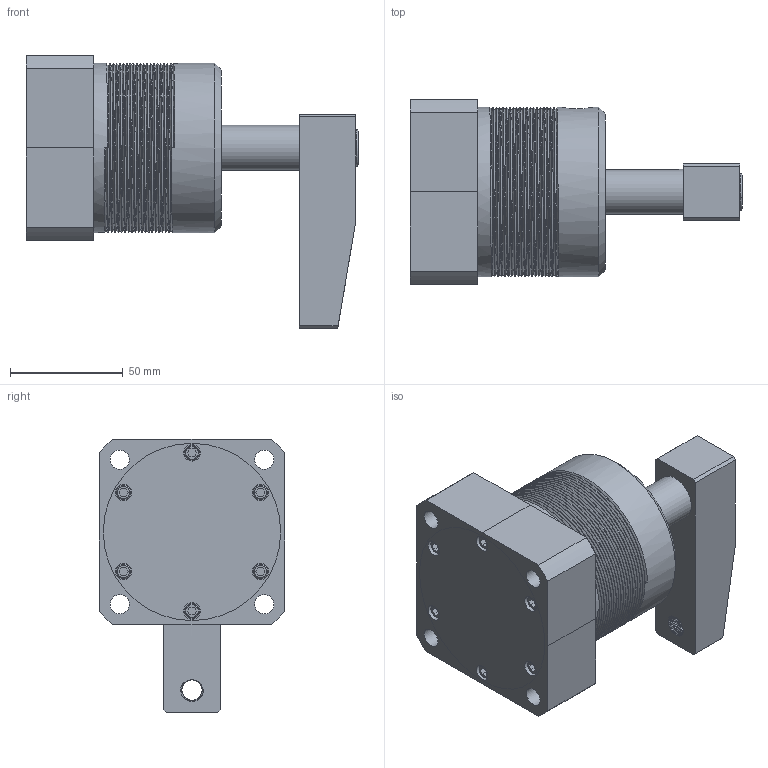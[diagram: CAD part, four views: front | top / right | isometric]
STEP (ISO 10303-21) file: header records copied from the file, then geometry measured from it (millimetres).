
FILE_DESCRIPTION(/* description */ (''),/* implementation_level */ '2;1');
FILE_NAME(/* name */ 'D:\Vault_2016\Projekty\STRONA\Pneumatic\Line ; Pipe connecct - type\cas-63s_asm\CAS-63SL-90_OTWARTY.stp',/* time_stamp */ '2019-01-17T12:54:05+01:00',/* author */ ('user'),/* organization */ (''),/* preprocessor_version */ 'ST-DEVELOPER v17.2',/* originating_system */ 'Autodesk Inventor 2019',/* authorisation */ '');
FILE_SCHEMA (('AUTOMOTIVE_DESIGN { 1 0 10303 214 3 1 1 }'));
Products named in the file (7): CAS-63SL-90_OTWARTY; CAS-63BT; CAS-63SHSG; CAS-63HG; M4; CAS-63SYB; M10LC
Assembly tree (11 placements, depth 2):
  CAS-63SL-90_OTWARTY
    CAS-63BT
    CAS-63SHSG
    CAS-63HG
    M4  x6
    CAS-63SYB
    M10LC
Bounding box: 147 x 82 x 121 mm (x, y, z)
Volume: 381451 mm3; surface area: 111435.3 mm2
Topology: 11 solids, 11 shells, 536 faces, 1514 edges, 1029 vertices
Faces by surface type: cylinder 244, plane 130, bspline 115, cone 36, torus 11
Full cylindrical faces by diameter (mm): 2 x1, 2.077 x1, 3.2 x6, 4 x116, 4.5 x6, 6.5 x6, 7.2 x6, 8.2 x16, 8.5 x5, 9 x17, 10 x14, 11 x1, 14 x3, 16 x1, 17 x1, 20 x2, 53 x2, 63 x5, 75 x20, 78.5 x2
Entity records: 38242 total; most frequent: CARTESIAN_POINT 30942, ORIENTED_EDGE 1622, DIRECTION 1182, EDGE_CURVE 811, VERTEX_POINT 559, AXIS2_PLACEMENT_3D 443, EDGE_LOOP 354, B_SPLINE_CURVE_WITH_KNOTS 327
